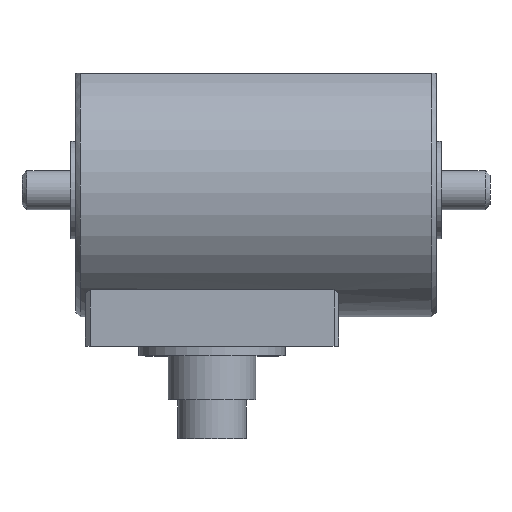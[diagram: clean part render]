
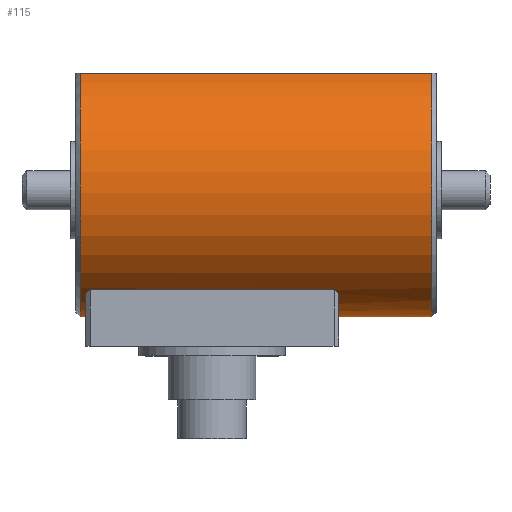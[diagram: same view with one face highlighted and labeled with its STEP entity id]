
A CAD part, top view. The second image highlights one B-rep face of the part: STEP entity #115.
In plain terms, the highlighted cylindrical face has radius 13 mm (diameter 26 mm), a partial arc.
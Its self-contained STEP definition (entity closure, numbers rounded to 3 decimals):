
#115=ADVANCED_FACE('',(#286),#287,.T.);
#286=FACE_OUTER_BOUND('',#910,.T.);
#287=CYLINDRICAL_SURFACE('',#911,13.0);
#910=EDGE_LOOP('',(#1567,#1568,#1569,#1570,#1571,#1572,#1573,#1574,#1575,#1576));
#911=AXIS2_PLACEMENT_3D('',#1577,#1578,#1579);
#1567=ORIENTED_EDGE('',*,*,#2146,.F.);
#1568=ORIENTED_EDGE('',*,*,#2147,.T.);
#1569=ORIENTED_EDGE('',*,*,#2148,.T.);
#1570=ORIENTED_EDGE('',*,*,#2149,.F.);
#1571=ORIENTED_EDGE('',*,*,#2150,.F.);
#1572=ORIENTED_EDGE('',*,*,#2151,.T.);
#1573=ORIENTED_EDGE('',*,*,#2152,.F.);
#1574=ORIENTED_EDGE('',*,*,#2153,.T.);
#1575=ORIENTED_EDGE('',*,*,#2154,.F.);
#1576=ORIENTED_EDGE('',*,*,#2155,.T.);
#1577=CARTESIAN_POINT('',(-15.789,0.0,0.0));
#1578=DIRECTION('',(1.0,0.0,0.0));
#1579=DIRECTION('',(0.0,-1.0,0.0));
#2146=EDGE_CURVE('',#2413,#2414,#2415,.T.);
#2147=EDGE_CURVE('',#2413,#2416,#2417,.T.);
#2148=EDGE_CURVE('',#2416,#2418,#2419,.T.);
#2149=EDGE_CURVE('',#2405,#2418,#2420,.T.);
#2150=EDGE_CURVE('',#2421,#2405,#2422,.T.);
#2151=EDGE_CURVE('',#2421,#2423,#2424,.T.);
#2152=EDGE_CURVE('',#2425,#2423,#2426,.F.);
#2153=EDGE_CURVE('',#2425,#2427,#2428,.T.);
#2154=EDGE_CURVE('',#2429,#2427,#2430,.F.);
#2155=EDGE_CURVE('',#2429,#2414,#2431,.T.);
#2405=VERTEX_POINT('',#2954);
#2413=VERTEX_POINT('',#2966);
#2414=VERTEX_POINT('',#2967);
#2415=LINE('',#2968,#2969);
#2416=VERTEX_POINT('',#2970);
#2417=CIRCLE('',#2971,13.0);
#2418=VERTEX_POINT('',#2972);
#2419=LINE('',#2973,#2974);
#2420=CIRCLE('',#2975,13.0);
#2421=VERTEX_POINT('',#2976);
#2422=LINE('',#2977,#2978);
#2423=VERTEX_POINT('',#2979);
#2424=CIRCLE('',#2980,13.0);
#2425=VERTEX_POINT('',#2981);
#2426=ELLIPSE('',#2982,18.385,13.0);
#2427=VERTEX_POINT('',#2983);
#2428=LINE('',#2984,#2985);
#2429=VERTEX_POINT('',#2986);
#2430=ELLIPSE('',#2987,18.385,13.0);
#2431=CIRCLE('',#2988,13.0);
#2954=CARTESIAN_POINT('',(-33.789,-13.0,0.));
#2966=CARTESIAN_POINT('',(2.211,-13.0,0.));
#2967=CARTESIAN_POINT('',(-7.289,-13.0,0.));
#2968=CARTESIAN_POINT('',(-15.789,-13.0,0.));
#2969=VECTOR('',#3576,1.0);
#2970=CARTESIAN_POINT('',(2.211,12.0,5.));
#2971=AXIS2_PLACEMENT_3D('',#3577,#3578,#3579);
#2972=CARTESIAN_POINT('',(-33.789,12.0,5.));
#2973=CARTESIAN_POINT('',(2.211,12.,5.));
#2974=VECTOR('',#3580,36.);
#2975=AXIS2_PLACEMENT_3D('',#3581,#3582,#3583);
#2976=CARTESIAN_POINT('',(-33.289,-13.0,0.));
#2977=CARTESIAN_POINT('',(-15.789,-13.0,0.));
#2978=VECTOR('',#3584,1.0);
#2979=CARTESIAN_POINT('',(-33.289,-10.618,7.5));
#2980=AXIS2_PLACEMENT_3D('',#3585,#3586,#3587);
#2981=CARTESIAN_POINT('',(-32.789,-10.247,8.));
#2982=AXIS2_PLACEMENT_3D('',#3588,#3589,#3590);
#2983=CARTESIAN_POINT('',(-7.789,-10.247,8.));
#2984=CARTESIAN_POINT('',(-32.789,-10.247,8.));
#2985=VECTOR('',#3591,25.);
#2986=CARTESIAN_POINT('',(-7.289,-10.618,7.5));
#2987=AXIS2_PLACEMENT_3D('',#3592,#3593,#3594);
#2988=AXIS2_PLACEMENT_3D('',#3595,#3596,#3597);
#3576=DIRECTION('',(-1.0,-0.0,0.0));
#3577=CARTESIAN_POINT('',(2.211,0.0,0.0));
#3578=DIRECTION('',(-1.0,0.0,0.0));
#3579=DIRECTION('',(0.0,-1.0,0.0));
#3580=DIRECTION('',(-1.0,0.,0.));
#3581=CARTESIAN_POINT('',(-33.789,0.0,0.0));
#3582=DIRECTION('',(-1.0,0.0,0.0));
#3583=DIRECTION('',(0.0,-1.0,0.0));
#3584=DIRECTION('',(-1.0,-0.0,0.0));
#3585=CARTESIAN_POINT('',(-33.289,0.0,0.0));
#3586=DIRECTION('',(-1.0,0.0,0.0));
#3587=DIRECTION('',(0.0,-1.0,0.0));
#3588=CARTESIAN_POINT('',(-40.789,0.0,0.0));
#3589=DIRECTION('',(-0.707,0.,0.707));
#3590=DIRECTION('',(0.707,0.0,0.707));
#3591=DIRECTION('',(1.0,0.0,0.0));
#3592=CARTESIAN_POINT('',(0.211,0.0,0.0));
#3593=DIRECTION('',(0.707,0.,0.707));
#3594=DIRECTION('',(-0.707,0.0,0.707));
#3595=CARTESIAN_POINT('',(-7.289,0.0,0.0));
#3596=DIRECTION('',(1.0,0.0,0.0));
#3597=DIRECTION('',(0.0,-1.0,0.0));
